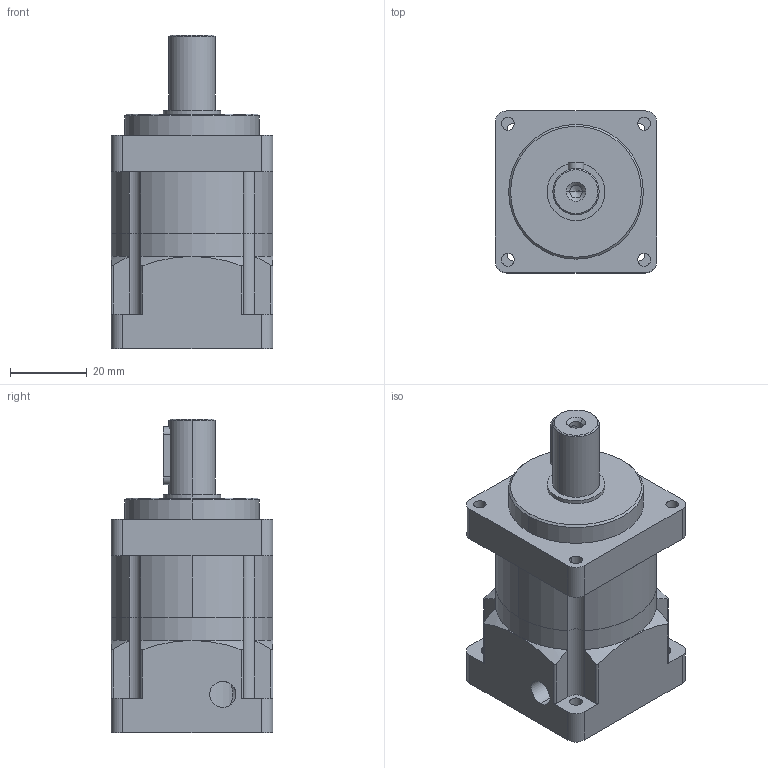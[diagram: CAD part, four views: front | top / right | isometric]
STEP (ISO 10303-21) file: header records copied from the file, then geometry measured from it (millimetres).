
FILE_DESCRIPTION (( 'STEP AP203' ), '1' );
FILE_NAME ('SL-040-005.STEP', '2010-05-19T15:32:17', ( 'render' ), ( '' ), 'SwSTEP 2.0', 'SolidWorks 2009', '' );
FILE_SCHEMA (( 'CONFIG_CONTROL_DESIGN' ));
Length unit declared in the file: millimetre
Products named in the file (1): SL-040-005
Bounding box: 42 x 42 x 81.5 mm (x, y, z)
Volume: 83571.9 mm3; surface area: 27522.3 mm2
Topology: 6 solids, 6 shells, 141 faces, 364 edges, 237 vertices
Faces by surface type: cylinder 73, plane 49, cone 11, sphere 8
Entity records: 4612 total; most frequent: CARTESIAN_POINT 951, DIRECTION 789, ORIENTED_EDGE 722, EDGE_CURVE 361, AXIS2_PLACEMENT_3D 303, VERTEX_POINT 237, LINE 183, VECTOR 183
